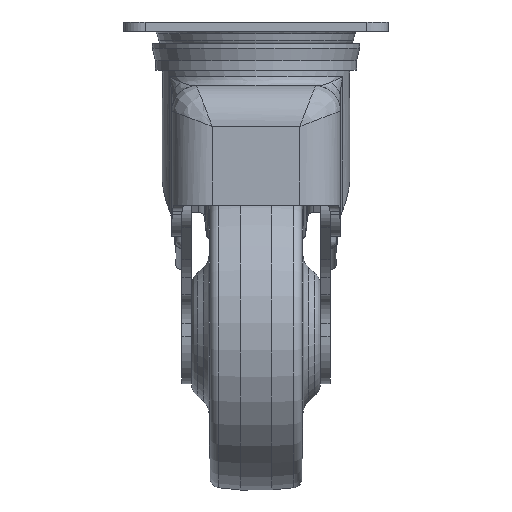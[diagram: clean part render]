
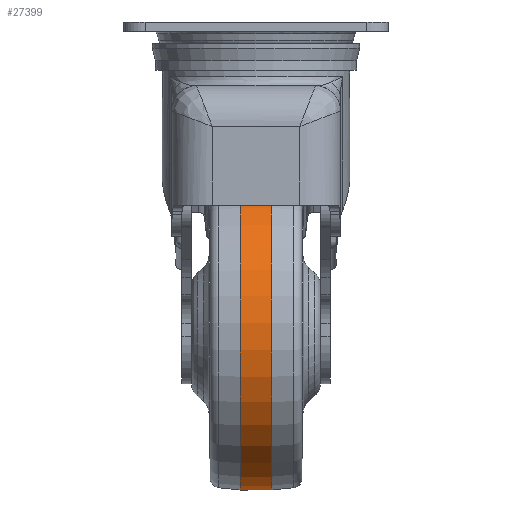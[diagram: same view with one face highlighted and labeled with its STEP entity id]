
A CAD part, left-side view. The second image highlights one B-rep face of the part: STEP entity #27399.
In plain terms, the highlighted cylindrical face has radius 50 mm (diameter 100 mm), a full revolution.
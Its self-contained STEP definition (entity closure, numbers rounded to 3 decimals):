
#27368=CARTESIAN_POINT('',(23.306,5.,-50.852));
#27369=VERTEX_POINT('',#27368);
#27370=CARTESIAN_POINT('',(45.,5.,-95.9));
#27371=DIRECTION('',(0.0,1.0,0.0));
#27372=DIRECTION('',(0.434,0.0,-0.901));
#27373=AXIS2_PLACEMENT_3D('',#27370,#27371,#27372);
#27374=CIRCLE('',#27373,50.);
#27375=EDGE_CURVE('',#27369,#27369,#27374,.T.);
#27380=CARTESIAN_POINT('',(45.,0.,-95.9));
#27381=DIRECTION('',(0.0,1.0,0.0));
#27382=DIRECTION('',(0.434,0.0,-0.901));
#27383=AXIS2_PLACEMENT_3D('',#27380,#27381,#27382);
#27384=CYLINDRICAL_SURFACE('',#27383,50.);
#27385=ORIENTED_EDGE('',*,*,#27375,.F.);
#27386=EDGE_LOOP('',(#27385));
#27387=FACE_OUTER_BOUND('',#27386,.T.);
#27388=CARTESIAN_POINT('',(23.306,-5.,-50.852));
#27389=VERTEX_POINT('',#27388);
#27390=CARTESIAN_POINT('',(45.,-5.,-95.9));
#27391=DIRECTION('',(0.0,1.0,0.0));
#27392=DIRECTION('',(0.434,0.0,-0.901));
#27393=AXIS2_PLACEMENT_3D('',#27390,#27391,#27392);
#27394=CIRCLE('',#27393,50.);
#27395=EDGE_CURVE('',#27389,#27389,#27394,.T.);
#27396=ORIENTED_EDGE('',*,*,#27395,.T.);
#27397=EDGE_LOOP('',(#27396));
#27398=FACE_BOUND('',#27397,.T.);
#27399=ADVANCED_FACE('',(#27387,#27398),#27384,.T.);
